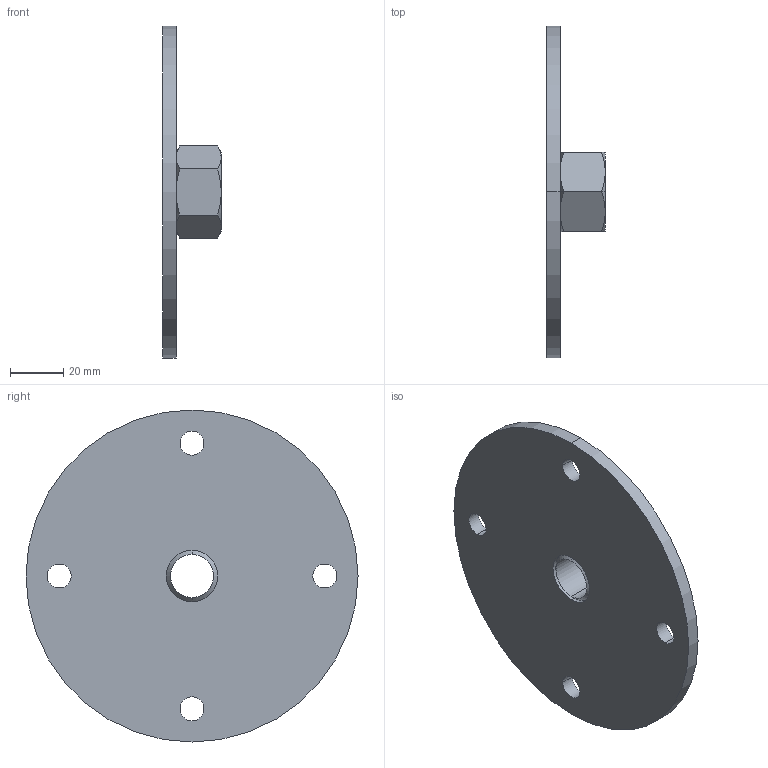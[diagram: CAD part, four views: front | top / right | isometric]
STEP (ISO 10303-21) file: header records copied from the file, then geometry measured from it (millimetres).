
FILE_DESCRIPTION(('starvars output'),'2;1');
FILE_NAME('E43005_3.stp','15:58:09 2007/04/16',( 'Thomas Industrial Network Germany GmbH'),( 'Thomas Industrial Network Germany GmbH'),'unknown preprocess','ACIS' ,'unknown authorization');
FILE_SCHEMA(('CONFIG_CONTROL_DESIGN {UNKNOWN IMPLEMENTATION LEVEL}'));
Length unit declared in the file: millimetre
Products named in the file (1): PRODUCT_ID_80
Bounding box: 22 x 125 x 125 mm (x, y, z)
Volume: 67521 mm3; surface area: 29365.8 mm2
Topology: 1 solids, 1 shells, 44 faces, 100 edges, 60 vertices
Faces by surface type: cone 18, cylinder 16, plane 10
Entity records: 1073 total; most frequent: CARTESIAN_POINT 204, ORIENTED_EDGE 200, DIRECTION 116, EDGE_CURVE 100, VERTEX_POINT 60, EDGE_LOOP 56, FACE_BOUND 56, AXIS2_PLACEMENT_3D 44
